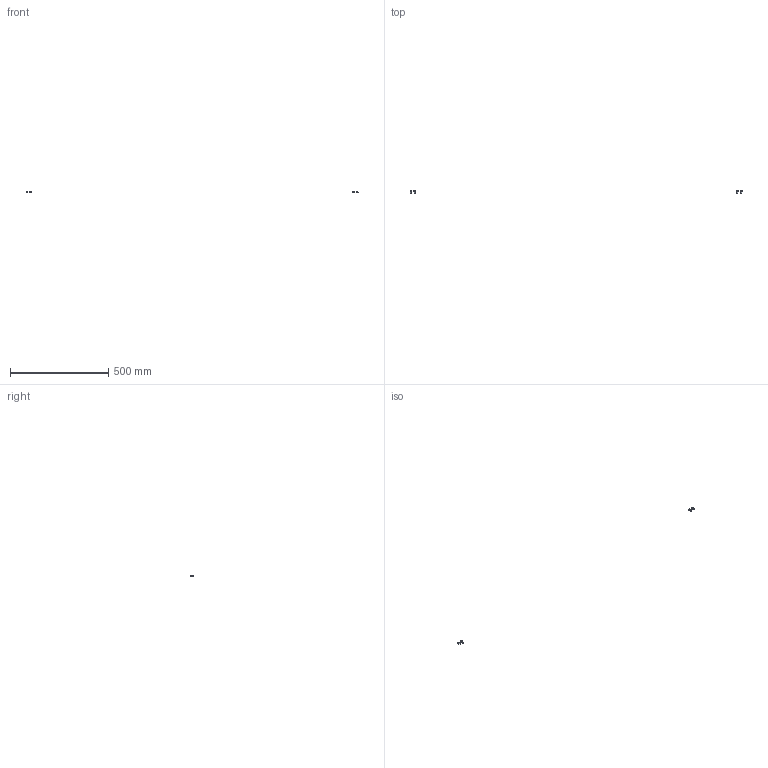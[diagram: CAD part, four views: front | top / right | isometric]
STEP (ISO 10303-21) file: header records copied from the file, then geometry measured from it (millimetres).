
FILE_DESCRIPTION(/* description */ (''),/* implementation_level */ '2;1');
FILE_NAME(/* name */ '4.frame-door#4.8#CB5-12',/* time_stamp */ '2014-12-01T20:13:04+01:00',/* author */ (''),/* organization */ (''),/* preprocessor_version */ 'ST-DEVELOPER v14',/* originating_system */ '',/* authorisation */ '');
FILE_SCHEMA (('AUTOMOTIVE_DESIGN'));
Length unit declared in the file: millimetre
Products named in the file (2): Document; screw DIN912-like, M5x12
Assembly tree (2 placements, depth 2):
  Document
    screw DIN912-like, M5x12  x2
Bounding box: 1688.5 x 17 x 8.49 mm (x, y, z)
Volume: 1915.5 mm3; surface area: 1831.5 mm2
Topology: 4 solids, 4 shells, 100 faces, 224 edges, 132 vertices
Faces by surface type: plane 60, bspline 40
Entity records: 4125 total; most frequent: CARTESIAN_POINT 1889, B_SPLINE_CURVE_WITH_KNOTS 378, ORIENTED_EDGE 324, PCURVE 324, DEFINITIONAL_REPRESENTATION 324, SURFACE_CURVE 162, EDGE_CURVE 162, VERTEX_POINT 99
